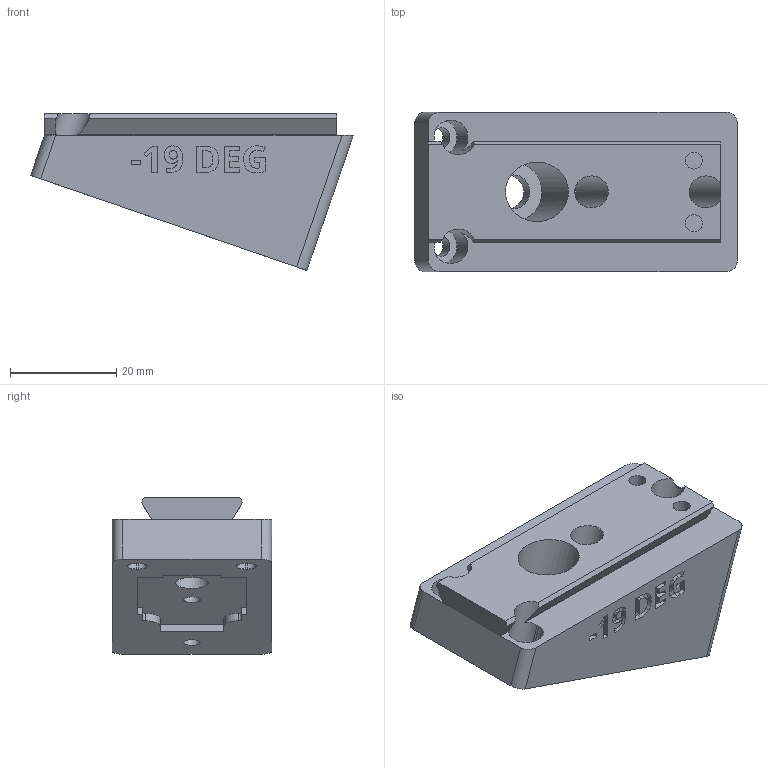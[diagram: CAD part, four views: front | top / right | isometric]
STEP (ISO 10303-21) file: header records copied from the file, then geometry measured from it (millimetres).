
FILE_DESCRIPTION(/* description */ ('STEP AP242 Edition 2','CAx-IF Rec.Pracs.---Representation and Presentation of Product Manufacturing Information (PMI)---4.0---2014-10-13','CAx-IF Rec.Pracs.---3D Tessellated Geometry---0.4---2014-09-14','2;1','CAx-IF Rec.Pracs.---User Defined Attributes---1.5---2016-08-15'),/* implementation_level */ '2;1');
FILE_NAME(/* name */ 'Camera Wedges - CAMERA MOUNTING WEDGE, NEG, -19 DEG',/* time_stamp */ '2026-08-11T00:06:43Z',/* author */ (''),/* organization */ (''),/* preprocessor_version */ 'ST-DEVELOPER v20',/* originating_system */ 'ONSHAPE BY PTC INC, 1.219',/* authorisation */ ' ');
FILE_SCHEMA (('AP242_MANAGED_MODEL_BASED_3D_ENGINEERING_MIM_LF { 1 0 10303 442 3 1 4 }'));
Length unit declared in the file: metre
Products named in the file (1): CAMERA MOUNTING WEDGE, NEG, -19 DEG
Bounding box: 60.76 x 30 x 29.53 mm (x, y, z)
Volume: 28385.2 mm3; surface area: 9126.5 mm2
Topology: 1 solids, 1 shells, 259 faces, 706 edges, 470 vertices
Faces by surface type: plane 145, bspline 72, cylinder 42
Full cylindrical faces by diameter (mm): 3.2 x4, 6 x2, 6.4 x1, 11.2 x1
Entity records: 8382 total; most frequent: CARTESIAN_POINT 2218, ORIENTED_EDGE 1394, DIRECTION 1026, EDGE_CURVE 697, VERTEX_POINT 469, LINE 456, VECTOR 456, EDGE_LOOP 298
